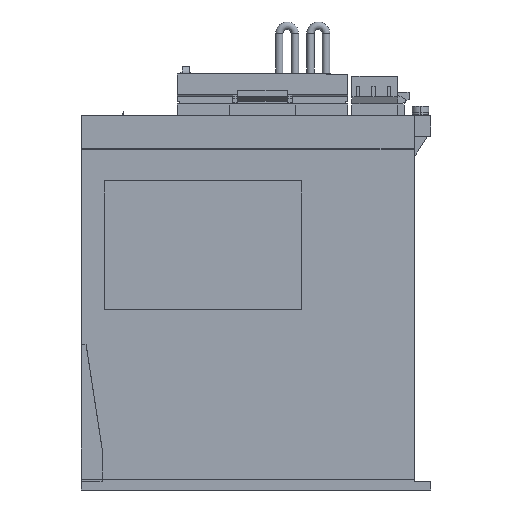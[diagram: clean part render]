
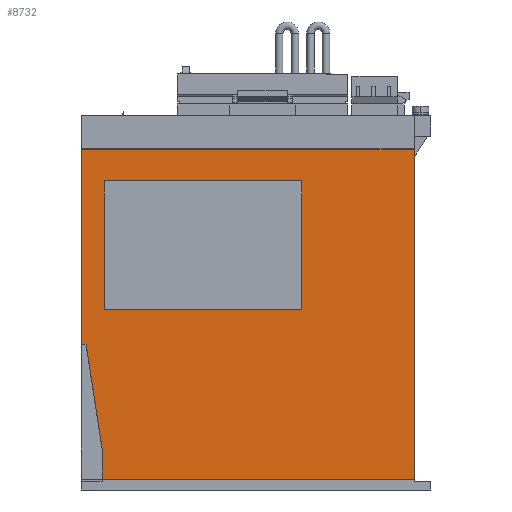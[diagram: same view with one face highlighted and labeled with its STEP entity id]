
A CAD part, left-side view. The second image highlights one B-rep face of the part: STEP entity #8732.
In plain terms, the highlighted planar face has unit normal (-1, 0, 0).
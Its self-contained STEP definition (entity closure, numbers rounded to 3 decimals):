
#1637 = EDGE_CURVE ( 'NONE', #3302, #18063, #20809, .T. ) ;
#1641 = ORIENTED_EDGE ( 'NONE', *, *, #1652, .T. ) ;
#1644 = ORIENTED_EDGE ( 'NONE', *, *, #1637, .F. ) ;
#1648 = VERTEX_POINT ( 'NONE', #20866 ) ;
#1652 = EDGE_CURVE ( 'NONE', #1648, #18066, #20840, .T. ) ;
#1656 = ORIENTED_EDGE ( 'NONE', *, *, #18065, .F. ) ;
#3299 = VERTEX_POINT ( 'NONE', #23581 ) ;
#3301 = EDGE_CURVE ( 'NONE', #3302, #3299, #23580, .T. ) ;
#3302 = VERTEX_POINT ( 'NONE', #23576 ) ;
#8180 = VERTEX_POINT ( 'NONE', #31451 ) ;
#8228 = VERTEX_POINT ( 'NONE', #31512 ) ;
#8299 = EDGE_CURVE ( 'NONE', #8180, #8228, #31605, .T. ) ;
#8302 = VERTEX_POINT ( 'NONE', #31669 ) ;
#8316 = ORIENTED_EDGE ( 'NONE', *, *, #53125, .F. ) ;
#8363 = ORIENTED_EDGE ( 'NONE', *, *, #8421, .F. ) ;
#8421 = EDGE_CURVE ( 'NONE', #8302, #8180, #31784, .T. ) ;
#8433 = ORIENTED_EDGE ( 'NONE', *, *, #8299, .F. ) ;
#8690 = EDGE_LOOP ( 'NONE', ( #8433, #8363, #8316, #53129 ) ) ;
#8732 = ADVANCED_FACE ( 'NONE', ( #32224, #32223 ), #32222, .F. ) ;
#18063 = VERTEX_POINT ( 'NONE', #48066 ) ;
#18065 = EDGE_CURVE ( 'NONE', #18063, #18066, #48065, .T. ) ;
#18066 = VERTEX_POINT ( 'NONE', #48061 ) ;
#20806 = DIRECTION ( 'NONE',  ( 0., -1., 0. ) ) ;
#20807 = VECTOR ( 'NONE', #20806, 1000. ) ;
#20808 = CARTESIAN_POINT ( 'NONE',  ( -5., 5., 163.8 ) ) ;
#20809 = LINE ( 'NONE', #20808, #20807 ) ;
#20838 = VECTOR ( 'NONE', #20917, 1000. ) ;
#20839 = CARTESIAN_POINT ( 'NONE',  ( -5., -5., 5.2 ) ) ;
#20840 = LINE ( 'NONE', #20839, #20838 ) ;
#20866 = CARTESIAN_POINT ( 'NONE',  ( -5., -5., 5.2 ) ) ;
#20917 = DIRECTION ( 'NONE',  ( 0., -1., 0. ) ) ;
#23576 = CARTESIAN_POINT ( 'NONE',  ( -5., 5., 163.8 ) ) ;
#23577 = DIRECTION ( 'NONE',  ( 0., 0., -1. ) ) ;
#23578 = VECTOR ( 'NONE', #23577, 1000. ) ;
#23579 = CARTESIAN_POINT ( 'NONE',  ( -5., 5., 338.642 ) ) ;
#23580 = LINE ( 'NONE', #23579, #23578 ) ;
#23581 = CARTESIAN_POINT ( 'NONE',  ( -5., 5., 70. ) ) ;
#31451 = CARTESIAN_POINT ( 'NONE',  ( -5., -6., 86.6 ) ) ;
#31512 = CARTESIAN_POINT ( 'NONE',  ( -5., -101., 86.6 ) ) ;
#31605 = LINE ( 'NONE', #31672, #31671 ) ;
#31669 = CARTESIAN_POINT ( 'NONE',  ( -5., -6., 148.6 ) ) ;
#31670 = DIRECTION ( 'NONE',  ( 0., -1., 0. ) ) ;
#31671 = VECTOR ( 'NONE', #31670, 1000. ) ;
#31672 = CARTESIAN_POINT ( 'NONE',  ( -5., -6., 86.6 ) ) ;
#31781 = DIRECTION ( 'NONE',  ( 0., 0., -1. ) ) ;
#31782 = VECTOR ( 'NONE', #31781, 1000. ) ;
#31783 = CARTESIAN_POINT ( 'NONE',  ( -5., -6., 86.6 ) ) ;
#31784 = LINE ( 'NONE', #31783, #31782 ) ;
#32218 = DIRECTION ( 'NONE',  ( 0., 1., 0. ) ) ;
#32219 = DIRECTION ( 'NONE',  ( 1., 0., 0. ) ) ;
#32220 = CARTESIAN_POINT ( 'NONE',  ( -5., 5., 338.642 ) ) ;
#32221 = AXIS2_PLACEMENT_3D ( 'NONE', #32220, #32219, #32218 ) ;
#32222 = PLANE ( 'NONE',  #32221 ) ;
#32223 = FACE_OUTER_BOUND ( 'NONE', #53120, .T. ) ;
#32224 = FACE_BOUND ( 'NONE', #8690, .T. ) ;
#48061 = CARTESIAN_POINT ( 'NONE',  ( -5., -155., 5.2 ) ) ;
#48062 = DIRECTION ( 'NONE',  ( 0., 0., -1. ) ) ;
#48063 = VECTOR ( 'NONE', #48062, 1000. ) ;
#48064 = CARTESIAN_POINT ( 'NONE',  ( -5., -155., 338.642 ) ) ;
#48065 = LINE ( 'NONE', #48064, #48063 ) ;
#48066 = CARTESIAN_POINT ( 'NONE',  ( -5., -155., 163.8 ) ) ;
#50522 = DIRECTION ( 'NONE',  ( 0., 0., -1. ) ) ;
#50523 = VECTOR ( 'NONE', #50522, 1000. ) ;
#50524 = CARTESIAN_POINT ( 'NONE',  ( -5., -5., 20. ) ) ;
#50525 = LINE ( 'NONE', #50524, #50523 ) ;
#50547 = CARTESIAN_POINT ( 'NONE',  ( -5., 2.692, 70. ) ) ;
#50553 = CARTESIAN_POINT ( 'NONE',  ( -5., -5., 20. ) ) ;
#50574 = DIRECTION ( 'NONE',  ( 0., 0.152, 0.988 ) ) ;
#50575 = VECTOR ( 'NONE', #50574, 1000. ) ;
#50576 = CARTESIAN_POINT ( 'NONE',  ( -5., -5., 20. ) ) ;
#50577 = LINE ( 'NONE', #50576, #50575 ) ;
#50599 = DIRECTION ( 'NONE',  ( 0., -1., 0. ) ) ;
#50600 = VECTOR ( 'NONE', #50599, 1000. ) ;
#50601 = CARTESIAN_POINT ( 'NONE',  ( -5., 5., 70. ) ) ;
#50602 = LINE ( 'NONE', #50601, #50600 ) ;
#50840 = DIRECTION ( 'NONE',  ( 0., 0., 1. ) ) ;
#50841 = VECTOR ( 'NONE', #50840, 1000. ) ;
#50842 = CARTESIAN_POINT ( 'NONE',  ( -5., -101., 86.6 ) ) ;
#50843 = LINE ( 'NONE', #50842, #50841 ) ;
#50848 = CARTESIAN_POINT ( 'NONE',  ( -5., -101., 148.6 ) ) ;
#50849 = DIRECTION ( 'NONE',  ( 0., 1., 0. ) ) ;
#50850 = VECTOR ( 'NONE', #50849, 1000. ) ;
#50851 = CARTESIAN_POINT ( 'NONE',  ( -5., -6., 148.6 ) ) ;
#50852 = LINE ( 'NONE', #50851, #50850 ) ;
#52926 = VERTEX_POINT ( 'NONE', #50553 ) ;
#52930 = ORIENTED_EDGE ( 'NONE', *, *, #52953, .F. ) ;
#52931 = VERTEX_POINT ( 'NONE', #50547 ) ;
#52933 = ORIENTED_EDGE ( 'NONE', *, *, #52945, .T. ) ;
#52940 = ORIENTED_EDGE ( 'NONE', *, *, #52977, .T. ) ;
#52945 = EDGE_CURVE ( 'NONE', #52926, #1648, #50525, .T. ) ;
#52953 = EDGE_CURVE ( 'NONE', #52926, #52931, #50577, .T. ) ;
#52977 = EDGE_CURVE ( 'NONE', #3299, #52931, #50602, .T. ) ;
#52999 = ORIENTED_EDGE ( 'NONE', *, *, #3301, .T. ) ;
#53120 = EDGE_LOOP ( 'NONE', ( #52999, #52940, #52930, #52933, #1641, #1656, #1644 ) ) ;
#53125 = EDGE_CURVE ( 'NONE', #53127, #8302, #50852, .T. ) ;
#53127 = VERTEX_POINT ( 'NONE', #50848 ) ;
#53129 = ORIENTED_EDGE ( 'NONE', *, *, #53132, .F. ) ;
#53132 = EDGE_CURVE ( 'NONE', #8228, #53127, #50843, .T. ) ;
